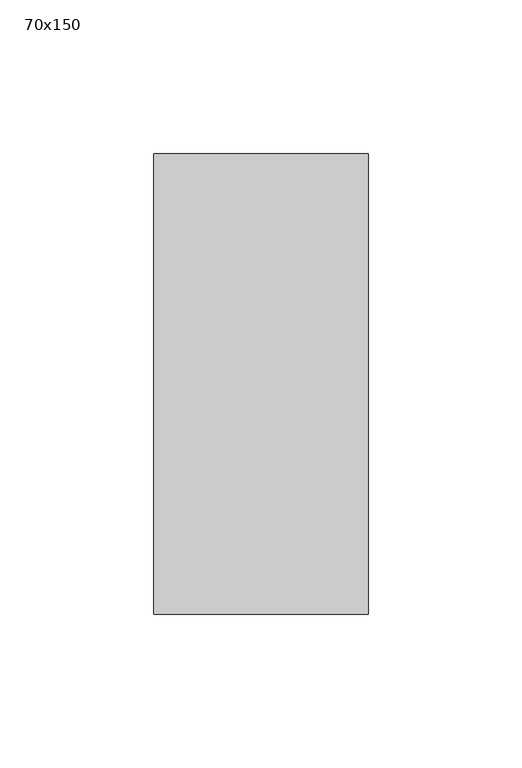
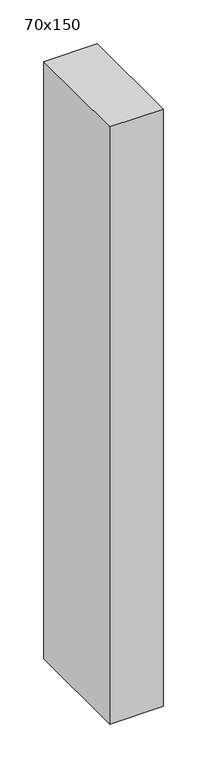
"""IFC4 building model written with IfcOpenShell, lengths in millimetres: member geometry, 長方形のマリオン : 70x150."""

from ifc_helpers import new_model, si_unit, frame, origin, place, context, project, spatial, polyline, outline, extrude, source, transform, mapped, element, save


def member_70x150_66cf63de(model_context):
    return source(origin(), model_context, "Body", "SweptSolid", [
        extrude(outline(polyline([(0.0, 75.0), (0.0, -75.0), (-70.0, -75.0), (-70.0, 75.0), (0.0, 75.0)])), frame((0.0, 0.0, -830.0), z_axis=(0.0, 0.0, 1.0), x_axis=(1.0, 0.0, 0.0)), (0.0, 0.0, 1.0), 830.0),
    ])


if __name__ == "__main__":
    model = new_model("IFC4")
    model_context = context("Model", 3, world=origin())
    ifc_project = project(units=[si_unit("LENGTHUNIT", "METRE", prefix="MILLI")], contexts=[model_context])
    site = spatial("IfcSite", under=ifc_project)
    building = spatial("IfcBuilding", under=site)
    placement = place(None, origin())
    member_70x150_shape = member_70x150_66cf63de(model_context)
    element("IfcMember", 1, ObjectType="長方形のマリオン : 70x150", at=placement, inside=building, context=model_context, shape_type="MappedRepresentation", body=[
        mapped(member_70x150_shape, transform((0.0, 0.0, 0.0), x_axis=(1.0, 0.0, 0.0), y_axis=(0.0, 1.0, 0.0), z_axis=(0.0, 0.0, 1.0))),
    ])
    save(model, "model.ifc")
